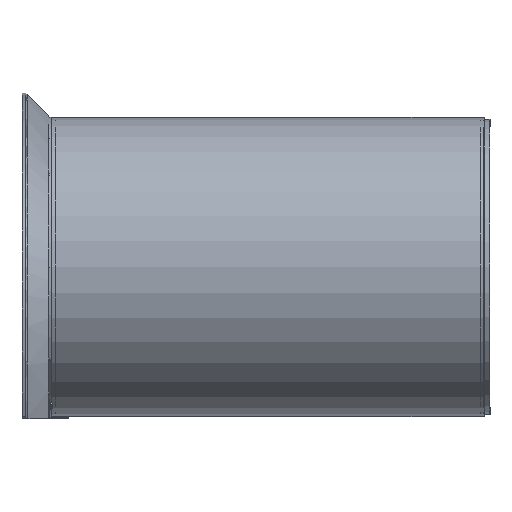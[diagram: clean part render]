
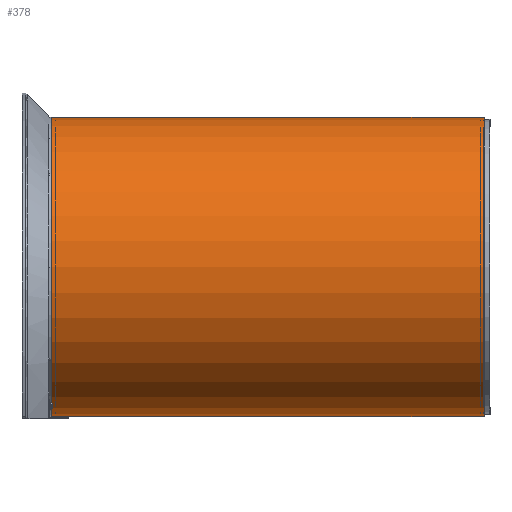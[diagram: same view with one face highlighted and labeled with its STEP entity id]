
A CAD part, left-side view. The second image highlights one B-rep face of the part: STEP entity #378.
In plain terms, the highlighted cylindrical face has radius 230 mm (diameter 460 mm), a partial arc.
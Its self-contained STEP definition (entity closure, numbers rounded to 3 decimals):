
#118 = ORIENTED_EDGE ( 'NONE', *, *, #9077, .F. ) ;
#156 = CIRCLE ( 'NONE', #11126, 230. ) ;
#378 = ADVANCED_FACE ( 'NONE', ( #1457 ), #4791, .T. ) ;
#471 = CARTESIAN_POINT ( 'NONE',  ( 2., 665., 0. ) ) ;
#495 = VERTEX_POINT ( 'NONE', #11222 ) ;
#675 = DIRECTION ( 'NONE',  ( 0., -1., 0. ) ) ;
#691 = VERTEX_POINT ( 'NONE', #10589 ) ;
#1058 = EDGE_LOOP ( 'NONE', ( #6211, #8737, #118, #5354 ) ) ;
#1362 = CARTESIAN_POINT ( 'NONE',  ( 2., 665., -230. ) ) ;
#1436 = EDGE_CURVE ( 'NONE', #1478, #3778, #5845, .T. ) ;
#1457 = FACE_OUTER_BOUND ( 'NONE', #1058, .T. ) ;
#1478 = VERTEX_POINT ( 'NONE', #11146 ) ;
#1912 = DIRECTION ( 'NONE',  ( 0., 1., 0. ) ) ;
#2817 = VECTOR ( 'NONE', #675, 1000. ) ;
#2844 = CARTESIAN_POINT ( 'NONE',  ( 2., 0., 0. ) ) ;
#2931 = VECTOR ( 'NONE', #4933, 1000. ) ;
#3778 = VERTEX_POINT ( 'NONE', #5520 ) ;
#4791 = CYLINDRICAL_SURFACE ( 'NONE', #9195, 230. ) ;
#4933 = DIRECTION ( 'NONE',  ( 0., -1., 0. ) ) ;
#5354 = ORIENTED_EDGE ( 'NONE', *, *, #9491, .T. ) ;
#5520 = CARTESIAN_POINT ( 'NONE',  ( 2., 0., -230. ) ) ;
#5845 = LINE ( 'NONE', #1362, #2817 ) ;
#5870 = EDGE_CURVE ( 'NONE', #691, #3778, #7807, .T. ) ;
#6211 = ORIENTED_EDGE ( 'NONE', *, *, #5870, .T. ) ;
#6383 = DIRECTION ( 'NONE',  ( 0., 0., 1. ) ) ;
#7529 = DIRECTION ( 'NONE',  ( 0., -1., 0. ) ) ;
#7562 = DIRECTION ( 'NONE',  ( 0., 0., 1. ) ) ;
#7807 = CIRCLE ( 'NONE', #10915, 230. ) ;
#8298 = LINE ( 'NONE', #9276, #2931 ) ;
#8737 = ORIENTED_EDGE ( 'NONE', *, *, #1436, .F. ) ;
#9077 = EDGE_CURVE ( 'NONE', #495, #1478, #156, .T. ) ;
#9195 = AXIS2_PLACEMENT_3D ( 'NONE', #471, #7529, #9309 ) ;
#9276 = CARTESIAN_POINT ( 'NONE',  ( 2., 665., 230. ) ) ;
#9309 = DIRECTION ( 'NONE',  ( 0., 0., -1. ) ) ;
#9491 = EDGE_CURVE ( 'NONE', #495, #691, #8298, .T. ) ;
#10071 = CARTESIAN_POINT ( 'NONE',  ( 2., 665., 0. ) ) ;
#10186 = DIRECTION ( 'NONE',  ( 0., 1., 0. ) ) ;
#10589 = CARTESIAN_POINT ( 'NONE',  ( 2., 0., 230. ) ) ;
#10915 = AXIS2_PLACEMENT_3D ( 'NONE', #2844, #1912, #6383 ) ;
#11126 = AXIS2_PLACEMENT_3D ( 'NONE', #10071, #10186, #7562 ) ;
#11146 = CARTESIAN_POINT ( 'NONE',  ( 2., 665., -230. ) ) ;
#11222 = CARTESIAN_POINT ( 'NONE',  ( 2., 665., 230. ) ) ;
